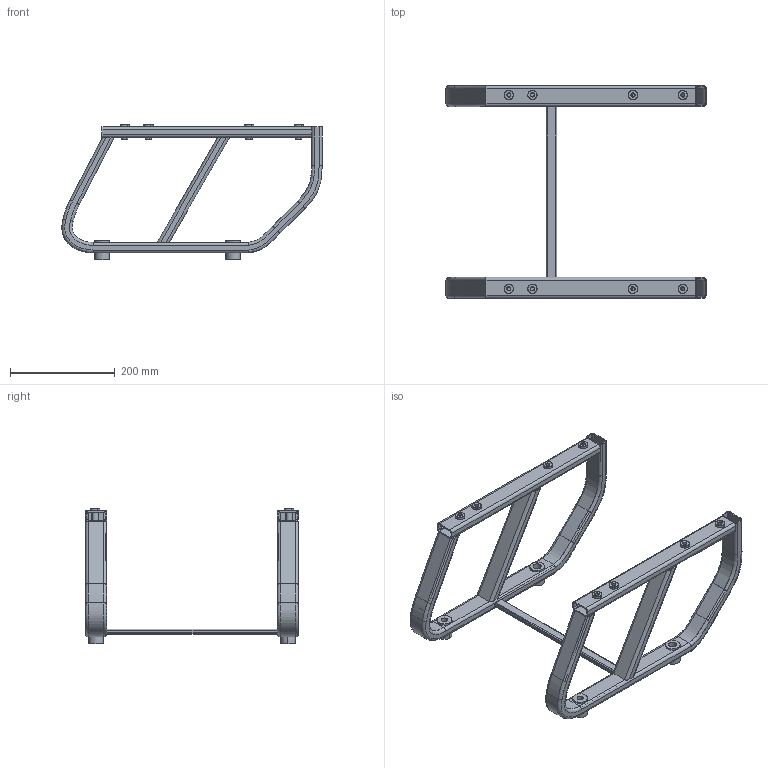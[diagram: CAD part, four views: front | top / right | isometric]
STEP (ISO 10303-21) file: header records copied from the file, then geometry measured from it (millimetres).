
FILE_DESCRIPTION(('CATIA V5 STEP Exchange'),'2;1');
FILE_NAME('C:\Users\wangyangguang\Desktop\奥杰轴套20220512\奥杰轴套\SBS0010137-副驾支腿焊接总成\SBS0010137.stp','2022-05-18T08:07:10+00:00',('none'),('none'),'CATIA Version 5 Release 20 GA (IN-10)','CATIA V5 STEP AP203','none');
FILE_SCHEMA(('CONFIG_CONTROL_DESIGN'));
Products named in the file (1): SBS0010137
Bounding box: 496.47 x 406 x 258.39 mm (x, y, z)
Volume: 774929.2 mm3; surface area: 676831.4 mm2
Topology: 19 solids, 19 shells, 732 faces, 1844 edges, 1150 vertices
Faces by surface type: cylinder 318, plane 134, torus 112, cone 96, bspline 72
Entity records: 45704 total; most frequent: CARTESIAN_POINT 29437, ORIENTED_EDGE 3688, DIRECTION 2596, EDGE_CURVE 1844, AXIS2_PLACEMENT_3D 1344, VERTEX_POINT 1150, EDGE_LOOP 830, ADVANCED_FACE 732
